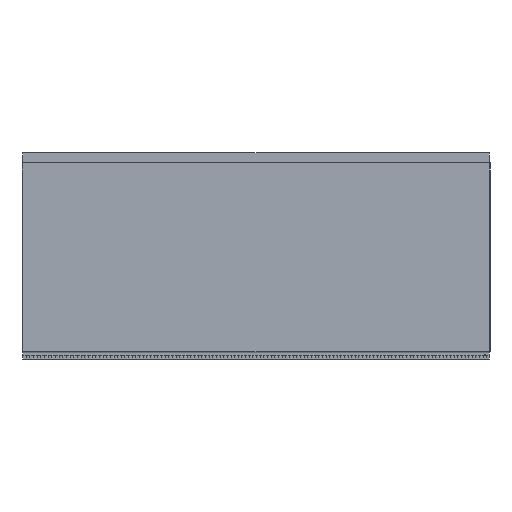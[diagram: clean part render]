
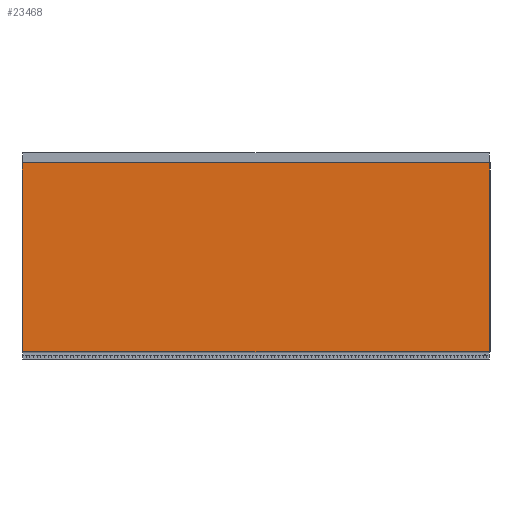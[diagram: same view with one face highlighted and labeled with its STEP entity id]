
A CAD part, front view. The second image highlights one B-rep face of the part: STEP entity #23468.
In plain terms, the highlighted planar face has unit normal (0, -1, 0).
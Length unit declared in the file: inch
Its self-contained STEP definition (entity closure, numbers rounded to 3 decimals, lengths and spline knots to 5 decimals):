
#1050 = CARTESIAN_POINT ( 'NONE',  ( 0., -0.026, 19.416 ) ) ;
#1058 = DIRECTION ( 'NONE',  ( -1., 0., 0. ) ) ;
#1367 = LINE ( 'NONE', #26559, #26992 ) ;
#1462 = EDGE_CURVE ( 'NONE', #6197, #20277, #15884, .T. ) ;
#1776 = DIRECTION ( 'NONE',  ( 0., 0., -1. ) ) ;
#1955 = VECTOR ( 'NONE', #1776, 39.37008 ) ;
#2137 = CARTESIAN_POINT ( 'NONE',  ( -0.0115, -0.026, 0.032 ) ) ;
#2490 = EDGE_CURVE ( 'NONE', #20539, #33834, #14075, .T. ) ;
#2634 = DIRECTION ( 'NONE',  ( 1., 0., 0. ) ) ;
#2686 = PLANE ( 'NONE',  #11176 ) ;
#3288 = VERTEX_POINT ( 'NONE', #31663 ) ;
#3702 = VECTOR ( 'NONE', #33497, 39.37008 ) ;
#3734 = VERTEX_POINT ( 'NONE', #9276 ) ;
#4262 = CARTESIAN_POINT ( 'NONE',  ( 0., -0.026, 0.032 ) ) ;
#4979 = DIRECTION ( 'NONE',  ( 0., 0., -1. ) ) ;
#5210 = CARTESIAN_POINT ( 'NONE',  ( -0.0115, -0.026, 19.416 ) ) ;
#6155 = EDGE_LOOP ( 'NONE', ( #19470, #8430, #21965, #36468, #10654, #23964, #24967, #14796 ) ) ;
#6197 = VERTEX_POINT ( 'NONE', #2137 ) ;
#7468 = CARTESIAN_POINT ( 'NONE',  ( 47.8865, -0.026, 19.416 ) ) ;
#7614 = CARTESIAN_POINT ( 'NONE',  ( 47.8865, -0.026, 19.416 ) ) ;
#7956 = VECTOR ( 'NONE', #1058, 39.37008 ) ;
#7969 = DIRECTION ( 'NONE',  ( 1., 0., 0. ) ) ;
#8371 = VECTOR ( 'NONE', #7969, 39.37008 ) ;
#8410 = VECTOR ( 'NONE', #2634, 39.37008 ) ;
#8430 = ORIENTED_EDGE ( 'NONE', *, *, #25801, .F. ) ;
#8686 = VECTOR ( 'NONE', #4979, 39.37008 ) ;
#9276 = CARTESIAN_POINT ( 'NONE',  ( 47.875, -0.026, 19.416 ) ) ;
#9295 = CARTESIAN_POINT ( 'NONE',  ( 47.875, -0.026, 0.032 ) ) ;
#9326 = EDGE_CURVE ( 'NONE', #14335, #3288, #24490, .T. ) ;
#10010 = EDGE_CURVE ( 'NONE', #3734, #14335, #18700, .T. ) ;
#10654 = ORIENTED_EDGE ( 'NONE', *, *, #10010, .F. ) ;
#11015 = CARTESIAN_POINT ( 'NONE',  ( -0.0115, -0.026, 0.032 ) ) ;
#11176 = AXIS2_PLACEMENT_3D ( 'NONE', #21960, #22439, #27885 ) ;
#11357 = CARTESIAN_POINT ( 'NONE',  ( 47.8865, -0.026, 0.032 ) ) ;
#13685 = LINE ( 'NONE', #11357, #29652 ) ;
#13711 = CARTESIAN_POINT ( 'NONE',  ( 47.8865, -0.026, 19.416 ) ) ;
#14075 = LINE ( 'NONE', #19062, #8371 ) ;
#14189 = CARTESIAN_POINT ( 'NONE',  ( -0.0115, -0.026, 19.416 ) ) ;
#14335 = VERTEX_POINT ( 'NONE', #7614 ) ;
#14796 = ORIENTED_EDGE ( 'NONE', *, *, #29941, .T. ) ;
#15884 = LINE ( 'NONE', #11015, #8410 ) ;
#18700 = LINE ( 'NONE', #13711, #3702 ) ;
#19062 = CARTESIAN_POINT ( 'NONE',  ( -0.0115, -0.026, 19.416 ) ) ;
#19470 = ORIENTED_EDGE ( 'NONE', *, *, #1462, .T. ) ;
#19854 = LINE ( 'NONE', #23541, #7956 ) ;
#20277 = VERTEX_POINT ( 'NONE', #4262 ) ;
#20539 = VERTEX_POINT ( 'NONE', #14189 ) ;
#21960 = CARTESIAN_POINT ( 'NONE',  ( 47.875, -0.026, 0.032 ) ) ;
#21965 = ORIENTED_EDGE ( 'NONE', *, *, #24879, .T. ) ;
#22439 = DIRECTION ( 'NONE',  ( 0., -1., 0. ) ) ;
#23337 = DIRECTION ( 'NONE',  ( -1., 0., 0. ) ) ;
#23468 = ADVANCED_FACE ( 'NONE', ( #28384 ), #2686, .T. ) ;
#23541 = CARTESIAN_POINT ( 'NONE',  ( 47.875, -0.026, 0.032 ) ) ;
#23964 = ORIENTED_EDGE ( 'NONE', *, *, #35760, .T. ) ;
#24490 = LINE ( 'NONE', #7468, #1955 ) ;
#24879 = EDGE_CURVE ( 'NONE', #34736, #3288, #13685, .T. ) ;
#24967 = ORIENTED_EDGE ( 'NONE', *, *, #2490, .F. ) ;
#25460 = DIRECTION ( 'NONE',  ( 1., 0., 0. ) ) ;
#25801 = EDGE_CURVE ( 'NONE', #34736, #20277, #19854, .T. ) ;
#26559 = CARTESIAN_POINT ( 'NONE',  ( 47.875, -0.026, 19.416 ) ) ;
#26992 = VECTOR ( 'NONE', #23337, 39.37008 ) ;
#27885 = DIRECTION ( 'NONE',  ( 0., 0., -1. ) ) ;
#28384 = FACE_OUTER_BOUND ( 'NONE', #6155, .T. ) ;
#29652 = VECTOR ( 'NONE', #25460, 39.37008 ) ;
#29941 = EDGE_CURVE ( 'NONE', #20539, #6197, #34773, .T. ) ;
#31663 = CARTESIAN_POINT ( 'NONE',  ( 47.8865, -0.026, 0.032 ) ) ;
#33497 = DIRECTION ( 'NONE',  ( 1., 0., 0. ) ) ;
#33834 = VERTEX_POINT ( 'NONE', #1050 ) ;
#34736 = VERTEX_POINT ( 'NONE', #9295 ) ;
#34773 = LINE ( 'NONE', #5210, #8686 ) ;
#35760 = EDGE_CURVE ( 'NONE', #3734, #33834, #1367, .T. ) ;
#36468 = ORIENTED_EDGE ( 'NONE', *, *, #9326, .F. ) ;
